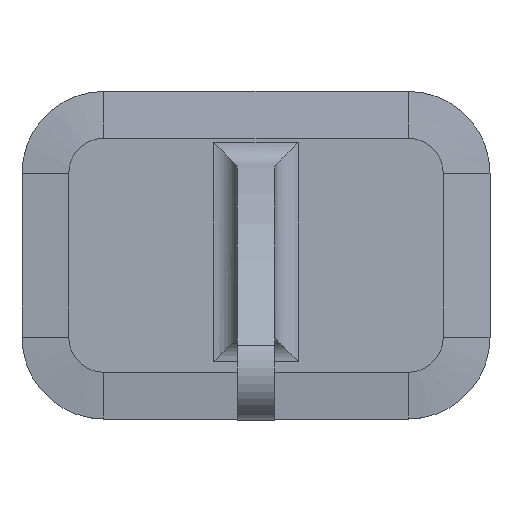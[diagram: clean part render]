
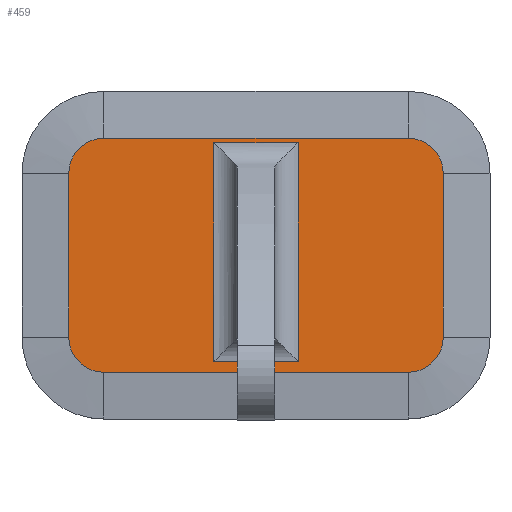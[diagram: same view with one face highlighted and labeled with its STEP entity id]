
A CAD part, top view. The second image highlights one B-rep face of the part: STEP entity #459.
In plain terms, the highlighted planar face has unit normal (0, 0, 1).
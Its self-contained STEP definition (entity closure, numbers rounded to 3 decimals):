
#23=FACE_BOUND('',#90,.T.);
#26=CIRCLE('',#505,1.5);
#27=CIRCLE('',#506,1.5);
#28=CIRCLE('',#507,1.5);
#29=CIRCLE('',#508,1.5);
#48=PLANE('',#504);
#61=FACE_OUTER_BOUND('',#89,.T.);
#89=EDGE_LOOP('',(#317,#318,#319,#320,#321,#322,#323,#324));
#90=EDGE_LOOP('',(#325,#326,#327,#328));
#124=LINE('',#725,#163);
#125=LINE('',#732,#164);
#126=LINE('',#736,#165);
#127=LINE('',#740,#166);
#128=LINE('',#743,#167);
#129=LINE('',#745,#168);
#130=LINE('',#747,#169);
#131=LINE('',#748,#170);
#163=VECTOR('',#565,10.);
#164=VECTOR('',#572,10.);
#165=VECTOR('',#575,10.);
#166=VECTOR('',#578,10.);
#167=VECTOR('',#581,10.);
#168=VECTOR('',#582,10.);
#169=VECTOR('',#583,10.);
#170=VECTOR('',#584,10.);
#206=VERTEX_POINT('',#722);
#207=VERTEX_POINT('',#724);
#208=VERTEX_POINT('',#728);
#209=VERTEX_POINT('',#729);
#210=VERTEX_POINT('',#731);
#211=VERTEX_POINT('',#733);
#212=VERTEX_POINT('',#735);
#213=VERTEX_POINT('',#737);
#214=VERTEX_POINT('',#739);
#215=VERTEX_POINT('',#741);
#216=VERTEX_POINT('',#744);
#217=VERTEX_POINT('',#746);
#248=EDGE_CURVE('',#206,#207,#124,.T.);
#250=EDGE_CURVE('',#208,#209,#26,.T.);
#251=EDGE_CURVE('',#210,#208,#125,.T.);
#252=EDGE_CURVE('',#211,#210,#27,.T.);
#253=EDGE_CURVE('',#212,#211,#126,.T.);
#254=EDGE_CURVE('',#213,#212,#28,.T.);
#255=EDGE_CURVE('',#214,#213,#127,.T.);
#256=EDGE_CURVE('',#215,#214,#29,.T.);
#257=EDGE_CURVE('',#209,#215,#128,.T.);
#258=EDGE_CURVE('',#216,#207,#129,.T.);
#259=EDGE_CURVE('',#217,#206,#130,.T.);
#260=EDGE_CURVE('',#216,#217,#131,.T.);
#317=ORIENTED_EDGE('',*,*,#250,.F.);
#318=ORIENTED_EDGE('',*,*,#251,.F.);
#319=ORIENTED_EDGE('',*,*,#252,.F.);
#320=ORIENTED_EDGE('',*,*,#253,.F.);
#321=ORIENTED_EDGE('',*,*,#254,.F.);
#322=ORIENTED_EDGE('',*,*,#255,.F.);
#323=ORIENTED_EDGE('',*,*,#256,.F.);
#324=ORIENTED_EDGE('',*,*,#257,.F.);
#325=ORIENTED_EDGE('',*,*,#258,.T.);
#326=ORIENTED_EDGE('',*,*,#248,.F.);
#327=ORIENTED_EDGE('',*,*,#259,.F.);
#328=ORIENTED_EDGE('',*,*,#260,.F.);
#459=ADVANCED_FACE('',(#61,#23),#48,.T.);
#504=AXIS2_PLACEMENT_3D('',#727,#568,#569);
#505=AXIS2_PLACEMENT_3D('',#730,#570,#571);
#506=AXIS2_PLACEMENT_3D('',#734,#573,#574);
#507=AXIS2_PLACEMENT_3D('',#738,#576,#577);
#508=AXIS2_PLACEMENT_3D('',#742,#579,#580);
#565=DIRECTION('',(0.,1.,0.));
#568=DIRECTION('center_axis',(0.,0.,1.));
#569=DIRECTION('ref_axis',(1.,0.,0.));
#570=DIRECTION('center_axis',(0.,0.,-1.));
#571=DIRECTION('ref_axis',(0.707,0.707,0.));
#572=DIRECTION('',(1.,0.,0.));
#573=DIRECTION('center_axis',(0.,0.,-1.));
#574=DIRECTION('ref_axis',(-0.707,0.707,0.));
#575=DIRECTION('',(0.,1.,0.));
#576=DIRECTION('center_axis',(0.,0.,-1.));
#577=DIRECTION('ref_axis',(-0.707,-0.707,0.));
#578=DIRECTION('',(-1.,0.,0.));
#579=DIRECTION('center_axis',(0.,0.,-1.));
#580=DIRECTION('ref_axis',(0.707,-0.707,0.));
#581=DIRECTION('',(0.,-1.,0.));
#582=DIRECTION('',(1.,0.,0.));
#583=DIRECTION('',(1.,0.,0.));
#584=DIRECTION('',(0.,-1.,0.));
#722=CARTESIAN_POINT('',(1.8,-4.545,0.4));
#724=CARTESIAN_POINT('',(1.8,4.812,0.4));
#725=CARTESIAN_POINT('',(1.8,-3.5,0.4));
#727=CARTESIAN_POINT('Origin',(0.,-1.,0.4));
#728=CARTESIAN_POINT('',(6.5,5.,0.4));
#729=CARTESIAN_POINT('',(8.,3.5,0.4));
#730=CARTESIAN_POINT('Origin',(6.5,3.5,0.4));
#731=CARTESIAN_POINT('',(-6.5,5.,0.4));
#732=CARTESIAN_POINT('',(5.,5.,0.4));
#733=CARTESIAN_POINT('',(-8.,3.5,0.4));
#734=CARTESIAN_POINT('Origin',(-6.5,3.5,0.4));
#735=CARTESIAN_POINT('',(-8.,-3.5,0.4));
#736=CARTESIAN_POINT('',(-8.,3.,0.4));
#737=CARTESIAN_POINT('',(-6.5,-5.,0.4));
#738=CARTESIAN_POINT('Origin',(-6.5,-3.5,0.4));
#739=CARTESIAN_POINT('',(6.5,-5.,0.4));
#740=CARTESIAN_POINT('',(-5.,-5.,0.4));
#741=CARTESIAN_POINT('',(8.,-3.5,0.4));
#742=CARTESIAN_POINT('Origin',(6.5,-3.5,0.4));
#743=CARTESIAN_POINT('',(8.,-4.,0.4));
#744=CARTESIAN_POINT('',(-1.8,4.812,0.4));
#745=CARTESIAN_POINT('',(0.6,4.812,0.4));
#746=CARTESIAN_POINT('',(-1.8,-4.545,0.4));
#747=CARTESIAN_POINT('',(0.6,-4.545,0.4));
#748=CARTESIAN_POINT('',(-1.8,1.5,0.4));
